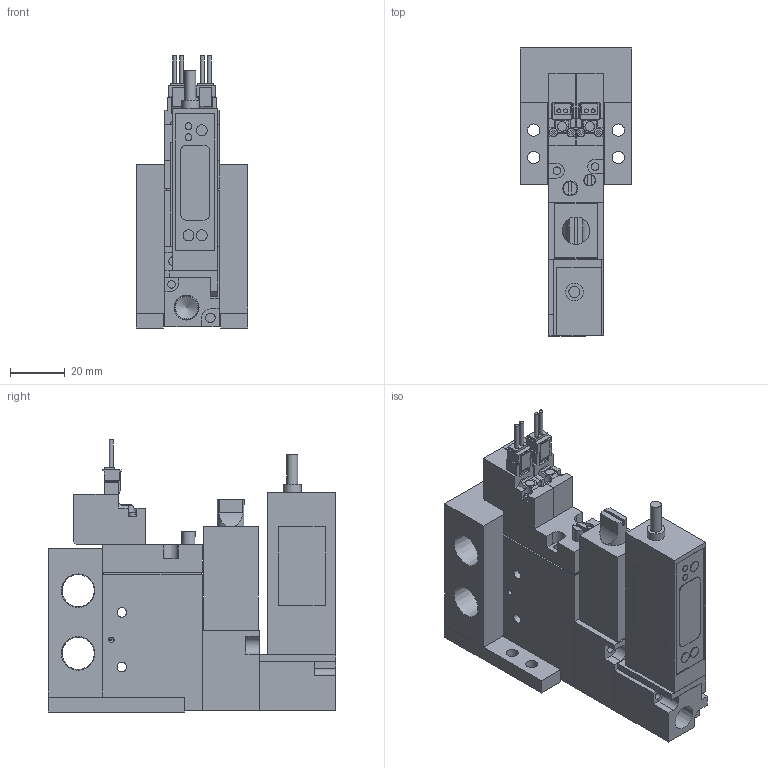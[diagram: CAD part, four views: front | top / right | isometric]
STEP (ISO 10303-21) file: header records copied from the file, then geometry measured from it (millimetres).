
FILE_DESCRIPTION(('STEP AP203'),'1');
FILE_NAME('BMPV32M2NV(R)G25BL101.stp','2025-06-17T00:54:46',(' '),(' '),'Spatial InterOp 3D',' ',' ');
FILE_SCHEMA(('CONFIG_CONTROL_DESIGN'));
Length unit declared in the file: millimetre
Products named in the file (16): BMPV32M2NV(R)G25BL101; MB01; MB BRACKET; Pressure sensor VGL; ___-3(Rc); Filter Assy; __; _____; ___ ___; ___; upper plate-A; ______; ____; VACUUM VALVE FUNCTION MPV42-A
Assembly tree (15 placements, depth 2):
  BMPV32M2NV(R)G25BL101
    MB01
    MB BRACKET
    MB BRACKET
    Pressure sensor VGL
    ___-3(Rc)
    Filter Assy
    __
    _____
    ___ ___
    ___
    upper plate-A
    ______
    ____
    VACUUM VALVE FUNCTION MPV42-A
    VACUUM VALVE FUNCTION MPV42-A
Bounding box: 41 x 105.5 x 99.75 mm (x, y, z)
Volume: 150247.3 mm3; surface area: 51508.2 mm2
Topology: 15 solids, 15 shells, 421 faces, 1075 edges, 715 vertices
Faces by surface type: plane 322, cylinder 84, cone 15
Full cylindrical faces by diameter (mm): 1.4 x4, 1.8 x2, 2 x2, 2.5 x8, 2.8 x4, 3 x4, 3.5 x14, 4 x5, 4.2 x1, 4.5 x4, 5 x1, 5.5 x1, 6.5 x7, 8.2 x1, 8.759 x1, 11.776 x2
Entity records: 13009 total; most frequent: CARTESIAN_POINT 2176, DIRECTION 2047, ORIENTED_EDGE 1938, EDGE_CURVE 969, LINE 757, VECTOR 757, VERTEX_POINT 696, AXIS2_PLACEMENT_3D 645
